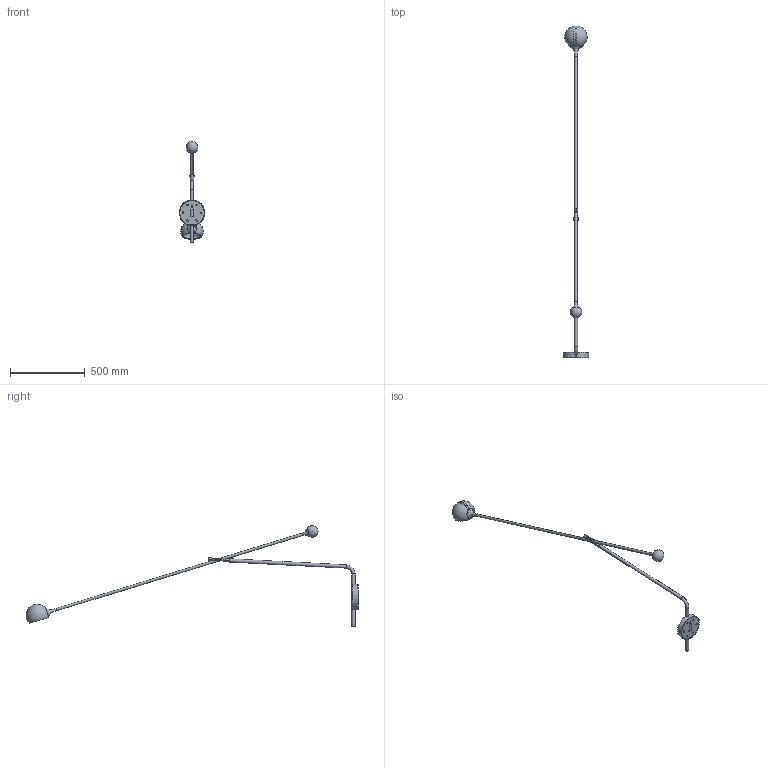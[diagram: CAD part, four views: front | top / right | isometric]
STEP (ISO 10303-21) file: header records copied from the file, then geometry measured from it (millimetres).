
FILE_DESCRIPTION(/* description */ ('','CAx-IF Rec.Pracs.---Representation and Presentation of Product Manufacturing Information (PMI)---4.0---2014-10-13'),/* implementation_level */ '2;1');
FILE_NAME(/* name */ '111X0YYA_B-IXA WALL XL_SEMPL_MAX_EST.step',/* time_stamp */ '2025-02-26T17:06:57+01:00',/* author */ (''),/* organization */ (''),/* preprocessor_version */ 'ST-DEVELOPER v20',/* originating_system */ 'Autodesk Translation Framework v13.20.0.188',/* authorisation */ '');
FILE_SCHEMA (('AP242_MANAGED_MODEL_BASED_3D_ENGINEERING_MIM_LF { 1 0 10303 442 1 1 4 }'));
Length unit declared in the file: millimetre
Products named in the file (19): RN24052809_--FLANGIA CEILING XL+RINFORZI v1; Y104005315 v1; X314000671_A-VITE TSV EI M4X30 ZN UNI 5933 NERA; Y203001014_--TAPPO FUST. COPRIVITE FORCELLA; RN24061201_--CAVO BIL.IXA XL WALL POS.NORM; Y201003228_--PASSACAVO ASOLATO ASTA 16; Y101001367_A-FORCELLA D22; Y201003227_--PASSACAVO FORCELLA; Y104005314 v1; Y104005317 v1; Y102018788 v1; Y104005319 v1; Y104005323 v1; Y201004143 v1; Y201002173_C-LENTE DI PROIEZIONE; Y203001315 v1; Y201004146 v1; Y102018698 v1; Y201004145 v1
Assembly tree (19 placements, depth 2):
  RN24052809_--FLANGIA CEILING XL+RINFORZI v1
    Y201004145 v1  x2
    Y104005315 v1
    X314000671_A-VITE TSV EI M4X30 ZN UNI 5933 NERA
    Y203001014_--TAPPO FUST. COPRIVITE FORCELLA
    RN24061201_--CAVO BIL.IXA XL WALL POS.NORM
    Y201003228_--PASSACAVO ASOLATO ASTA 16
    Y101001367_A-FORCELLA D22
    Y201003227_--PASSACAVO FORCELLA
    Y104005314 v1
    Y104005317 v1
    Y102018788 v1
    Y104005319 v1
    Y104005323 v1
    Y201004143 v1
    Y201002173_C-LENTE DI PROIEZIONE
    Y203001315 v1
    Y201004146 v1
    Y102018698 v1
Bounding box: 169.99 x 2216.24 x 673.38 mm (x, y, z)
Volume: 1004366 mm3; surface area: 620456 mm2
Topology: 19 solids, 20 shells, 467 faces, 1124 edges, 684 vertices
Faces by surface type: bspline 193, plane 101, cylinder 101, cone 48, torus 20, sphere 4
Full cylindrical faces by diameter (mm): 2.529 x1, 3.332 x1, 4 x1, 4.5 x1, 5.4 x2, 5.8 x1, 7.423 x1, 7.6 x1, 7.7 x1, 8 x1, 10 x1, 12 x1, 16 x4, 22 x3, 67.5 x1, 163.043 x1
Entity records: 51848 total; most frequent: CARTESIAN_POINT 41962, ORIENTED_EDGE 2158, DIRECTION 1579, EDGE_CURVE 1079, VERTEX_POINT 658, AXIS2_PLACEMENT_3D 626, EDGE_LOOP 489, FACE_OUTER_BOUND 450
